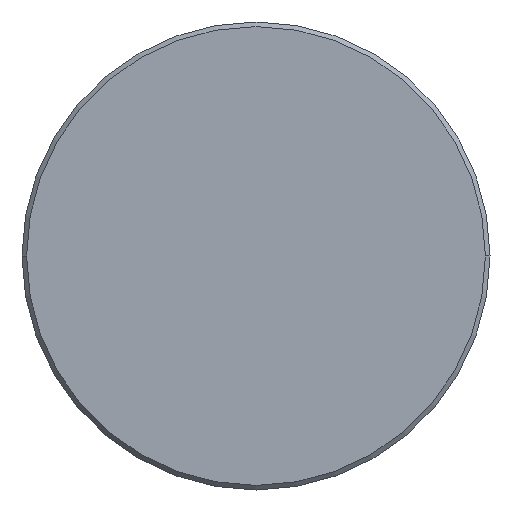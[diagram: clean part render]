
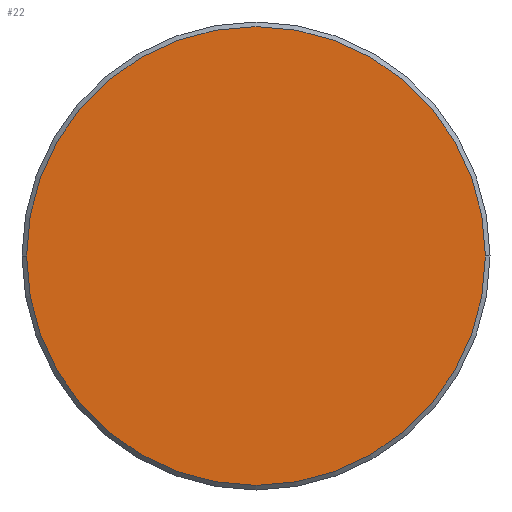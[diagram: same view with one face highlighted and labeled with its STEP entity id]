
A CAD part, left-side view. The second image highlights one B-rep face of the part: STEP entity #22.
In plain terms, the highlighted planar face has unit normal (-1, 0, 0).
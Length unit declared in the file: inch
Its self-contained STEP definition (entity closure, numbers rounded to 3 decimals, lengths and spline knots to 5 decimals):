
#22 = ADVANCED_FACE ( 'NONE', ( #191 ), #154, .T. ) ;
#68 = VERTEX_POINT ( 'NONE', #219 ) ;
#74 = DIRECTION ( 'NONE',  ( -1., 0., 0. ) ) ;
#111 = ORIENTED_EDGE ( 'NONE', *, *, #339, .T. ) ;
#119 = DIRECTION ( 'NONE',  ( 0., -1., 0. ) ) ;
#126 = CIRCLE ( 'NONE', #380, 0.19913 ) ;
#154 = PLANE ( 'NONE',  #295 ) ;
#157 = CARTESIAN_POINT ( 'NONE',  ( 0., 0., 0. ) ) ;
#160 = AXIS2_PLACEMENT_3D ( 'NONE', #292, #353, #288 ) ;
#178 = EDGE_LOOP ( 'NONE', ( #290, #111 ) ) ;
#191 = FACE_OUTER_BOUND ( 'NONE', #178, .T. ) ;
#210 = DIRECTION ( 'NONE',  ( -1., 0., 0. ) ) ;
#211 = CARTESIAN_POINT ( 'NONE',  ( 0., -0.19913, 0. ) ) ;
#219 = CARTESIAN_POINT ( 'NONE',  ( 0., 0.19913, 0. ) ) ;
#222 = CIRCLE ( 'NONE', #160, 0.19913 ) ;
#257 = CARTESIAN_POINT ( 'NONE',  ( 0., 0., 0. ) ) ;
#271 = DIRECTION ( 'NONE',  ( 0., -1., 0. ) ) ;
#277 = EDGE_CURVE ( 'NONE', #68, #354, #126, .T. ) ;
#288 = DIRECTION ( 'NONE',  ( 0., -1., 0. ) ) ;
#290 = ORIENTED_EDGE ( 'NONE', *, *, #277, .T. ) ;
#292 = CARTESIAN_POINT ( 'NONE',  ( 0., 0., 0. ) ) ;
#295 = AXIS2_PLACEMENT_3D ( 'NONE', #157, #74, #271 ) ;
#339 = EDGE_CURVE ( 'NONE', #354, #68, #222, .T. ) ;
#353 = DIRECTION ( 'NONE',  ( -1., 0., 0. ) ) ;
#354 = VERTEX_POINT ( 'NONE', #211 ) ;
#380 = AXIS2_PLACEMENT_3D ( 'NONE', #257, #210, #119 ) ;
